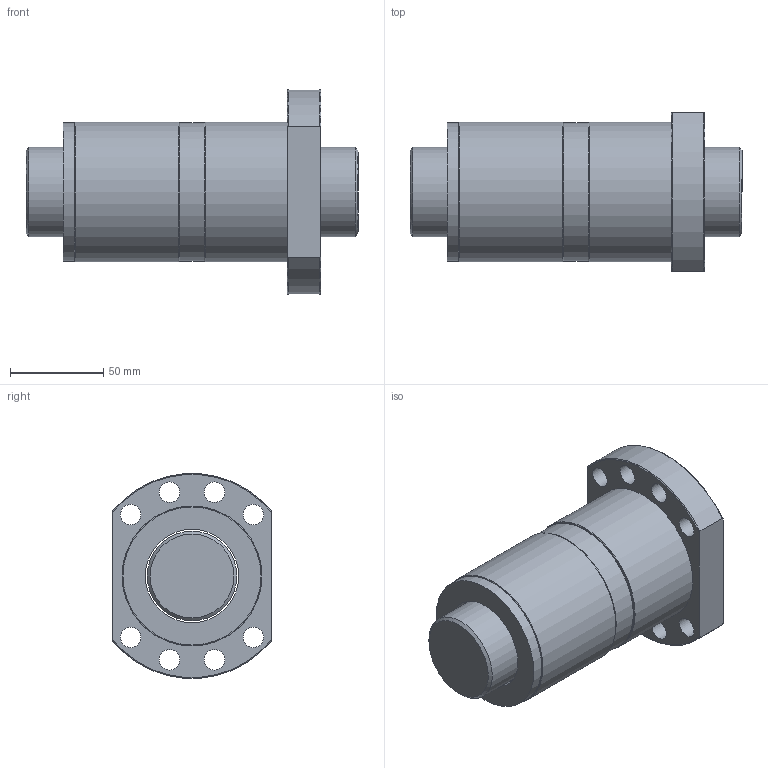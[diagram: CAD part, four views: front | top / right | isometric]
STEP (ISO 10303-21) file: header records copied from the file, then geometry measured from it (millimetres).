
FILE_DESCRIPTION(/* description */ (''),/* implementation_level */ '2;1');
FILE_NAME(/* name */ 'DFS5010',/* time_stamp */ '2007-10-26T13:52:41+08:00',/* author */ (''),/* organization */ (''),/* preprocessor_version */ 'ST-DEVELOPER v9',/* originating_system */ 'UGS - NX 3.0',/* authorisation */ '');
FILE_SCHEMA (('CONFIG_CONTROL_DESIGN'));
Length unit declared in the file: millimetre
Products named in the file (1): DFS5010
Bounding box: 178 x 85 x 109.65 mm (x, y, z)
Volume: 714476.8 mm3; surface area: 123691.5 mm2
Topology: 6 solids, 6 shells, 49 faces, 106 edges, 71 vertices
Faces by surface type: cylinder 22, plane 16, torus 9, cone 2
Full cylindrical faces by diameter (mm): 11 x8, 48 x1, 50 x5, 74 x1, 74.007 x3, 75 x2
Entity records: 1412 total; most frequent: CARTESIAN_POINT 328, DIRECTION 218, ORIENTED_EDGE 142, AXIS2_PLACEMENT_3D 105, EDGE_LOOP 104, FACE_BOUND 80, EDGE_CURVE 71, VERTEX_POINT 63
